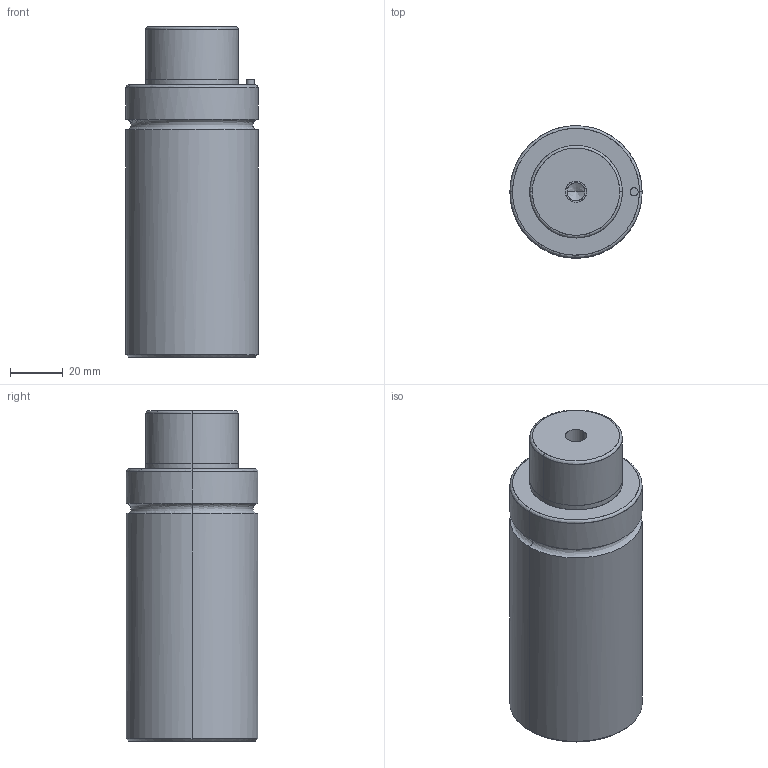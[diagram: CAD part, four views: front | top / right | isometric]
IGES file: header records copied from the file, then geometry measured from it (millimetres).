
Global section: file name: E:\UnigraphicsGraphicData\MISUMI_PRESS-PARTS\IGES\3d_gsm50-20_03924_r00.igs; native system: NX V5.0; preprocessor: UGS NX IGES V5.0; author: MISUMI; date: 20110105.160815; units: millimetre
Bounding box: 50 x 49.94 x 125 mm (x, y, z)
Surface area: 24087.6 mm2 (no closed solid volume)
Topology: 0 solids, 0 shells, 50 faces, 344 edges, 336 vertices
Faces by surface type: bspline 50
